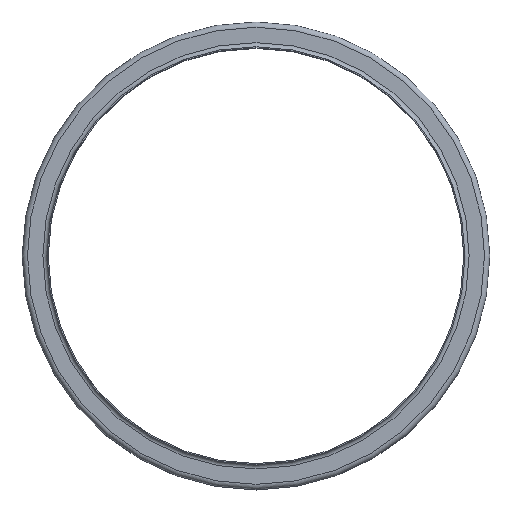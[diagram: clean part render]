
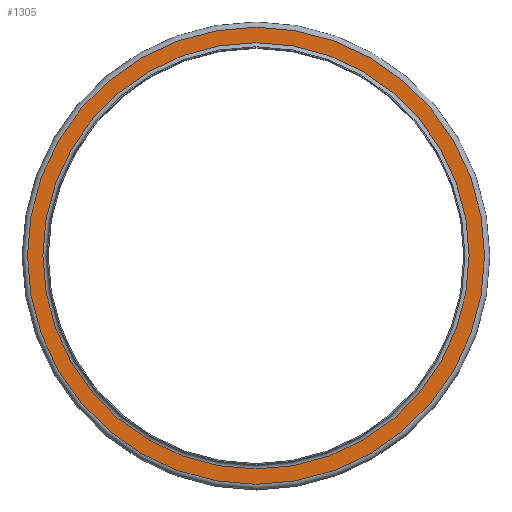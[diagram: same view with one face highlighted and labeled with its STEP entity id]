
A CAD part, top view. The second image highlights one B-rep face of the part: STEP entity #1305.
In plain terms, the highlighted planar face has unit normal (0, 0, 1).
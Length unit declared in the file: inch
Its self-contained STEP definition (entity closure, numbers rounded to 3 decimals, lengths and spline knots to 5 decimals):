
#130=FACE_BOUND('',#384,.T.);
#229=FACE_OUTER_BOUND('',#383,.T.);
#383=EDGE_LOOP('',(#1108));
#384=EDGE_LOOP('',(#1109));
#545=CIRCLE('',#1574,11.28);
#546=CIRCLE('',#1576,12.095);
#658=VERTEX_POINT('',#2470);
#659=VERTEX_POINT('',#2474);
#811=EDGE_CURVE('',#658,#658,#545,.T.);
#812=EDGE_CURVE('',#659,#659,#546,.T.);
#1108=ORIENTED_EDGE('',*,*,#812,.F.);
#1109=ORIENTED_EDGE('',*,*,#811,.T.);
#1206=PLANE('',#1575);
#1305=ADVANCED_FACE('',(#229,#130),#1206,.T.);
#1574=AXIS2_PLACEMENT_3D('',#2472,#2070,#2071);
#1575=AXIS2_PLACEMENT_3D('',#2473,#2072,#2073);
#1576=AXIS2_PLACEMENT_3D('',#2475,#2074,#2075);
#2070=DIRECTION('center_axis',(0.,0.,-1.));
#2071=DIRECTION('ref_axis',(1.,0.,0.));
#2072=DIRECTION('center_axis',(0.,0.,1.));
#2073=DIRECTION('ref_axis',(1.,0.,0.));
#2074=DIRECTION('center_axis',(0.,0.,-1.));
#2075=DIRECTION('ref_axis',(1.,0.,0.));
#2470=CARTESIAN_POINT('',(11.28,0.,-0.22));
#2472=CARTESIAN_POINT('Origin',(0.,0.,-0.22));
#2473=CARTESIAN_POINT('Origin',(0.,12.095,-0.22));
#2474=CARTESIAN_POINT('',(12.095,0.,-0.22));
#2475=CARTESIAN_POINT('Origin',(0.,0.,-0.22));
